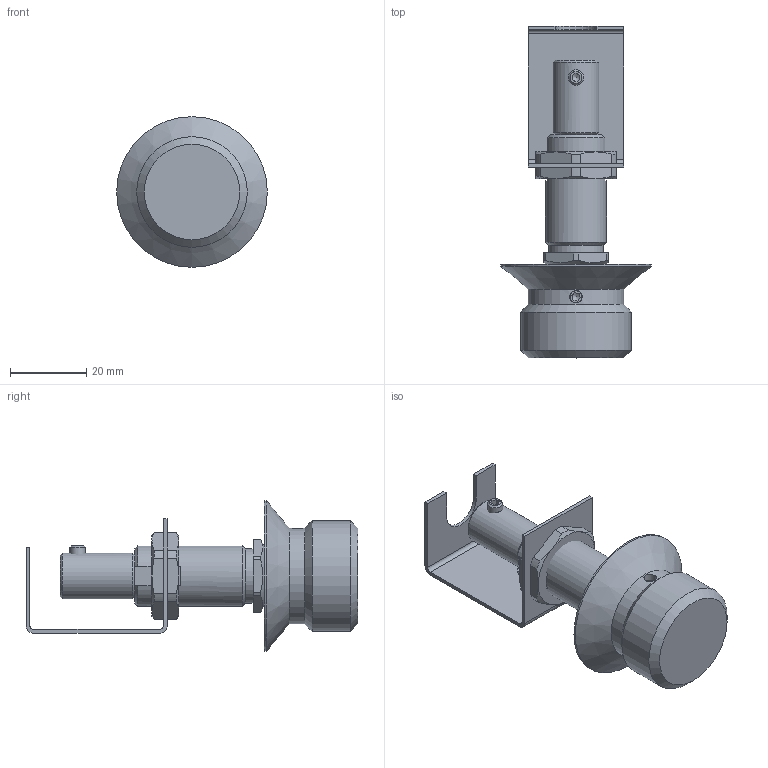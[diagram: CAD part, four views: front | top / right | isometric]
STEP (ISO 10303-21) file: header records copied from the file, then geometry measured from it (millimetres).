
FILE_DESCRIPTION((''),'2;1');
FILE_NAME('C:\Users\A.V.Nesterov\Desktop\111\3D\ТЗ\ТЗ 113959\РГВ12_М16_3D.stp','2024-11-06T12:51:14',('A.V.Nesterov'),(''),'Autodesk Inventor 2012','Autodesk Inventor 2012','');
FILE_SCHEMA(('AUTOMOTIVE_DESIGN { 1 0 10303 214 1 1 1 1 }'));
Length unit declared in the file: millimetre
Products named in the file (1): РГВ12_М16_3D
Bounding box: 39.5 x 87 x 39.5 mm (x, y, z)
Surface area: 16485.1 mm2 (no closed solid volume)
Topology: 0 solids, 9 shells, 159 faces, 380 edges, 242 vertices
Faces by surface type: plane 79, cylinder 43, cone 36, torus 1
Full cylindrical faces by diameter (mm): 3.242 x2, 4 x2, 6.7 x1, 7.95 x1, 8 x2, 8.1 x1, 11.5 x1, 12 x1, 14.3 x1, 14.376 x2, 16 x1, 25 x1, 29 x1, 39.5 x1
Entity records: 4613 total; most frequent: CARTESIAN_POINT 949, DIRECTION 718, ORIENTED_EDGE 660, EDGE_CURVE 330, AXIS2_PLACEMENT_3D 279, VERTEX_POINT 233, EDGE_LOOP 217, VECTOR 160
